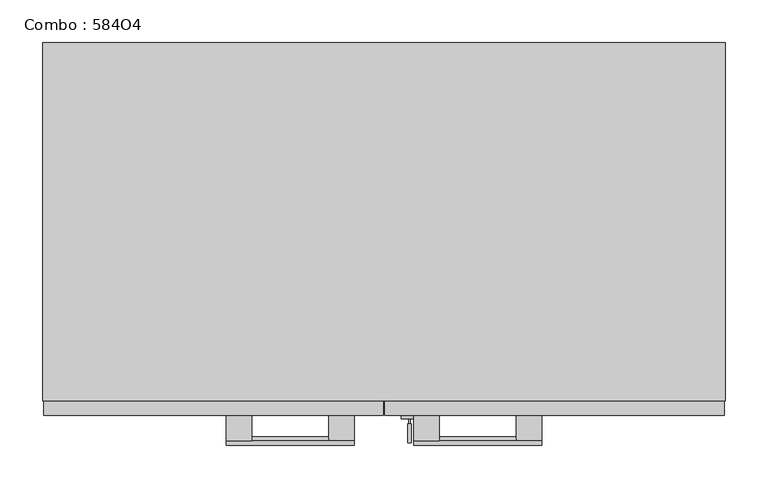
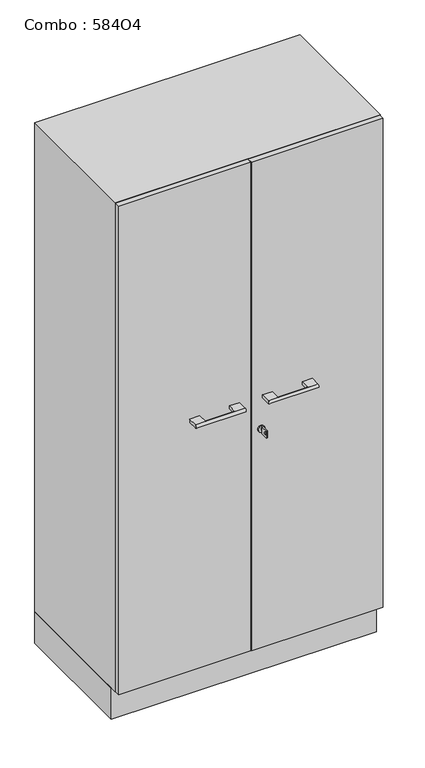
"""IFC4 building model written with IfcOpenShell, lengths in millimetres: furniture geometry, Combo : 584O4."""

from ifc_helpers import new_model, si_unit, point, frame, frame_2d, origin, origin_with_axes, place, context, project, spatial, polyline, circle_curve, trimmed, segment, composite_curve, outline, extrude, source, transform, mapped, element, save
from ifc_brep_helpers import plane_surface, cylinder_surface, advanced_brep


def combo_584o4_b0ceb60e(model_context):
    return source(origin(), model_context, "Body", "SolidModel", [
        extrude(outline(polyline([(-400.0, -400.0), (-400.0, 0.0), (400.0, 0.0), (400.0, -400.0), (-400.0, -400.0)])), origin_with_axes(), (0.0, 0.0, 1.0), 100.0),
        extrude(outline(composite_curve([segment(trimmed(circle_curve(frame_2d((800.0, 30.0)), 10.0), [point((800.0, 20.0))], [point((800.0, 40.0))], False, "CARTESIAN"), True, "CONTINUOUS"), segment(trimmed(circle_curve(frame_2d((800.0, 30.0)), 10.0), [point((800.0, 40.0))], [point((800.0, 20.0))], False, "CARTESIAN"), True, "CONTINUOUS")], self_intersect=False)), frame((0.0, -441.0, 0.0), z_axis=(0.0, 1.0, 0.0), x_axis=(0.0, 0.0, 1.0)), (0.0, 0.0, 1.0), 4.0),
        extrude(outline(polyline([(-469.0, 789.014113), (-469.0, 811.0), (-447.0, 811.0), (-447.0, 789.014113), (-469.0, 789.014113)]), holes=[composite_curve([segment(trimmed(circle_curve(frame_2d((-462.75, 800.0070565)), 3.2230706), [point((-462.75, 803.2301271))], [point((-462.75, 796.7839859))], True, "CARTESIAN"), True, "CONTINUOUS"), segment(trimmed(circle_curve(frame_2d((-462.75, 800.0070565)), 3.2230706), [point((-462.75, 796.7839859))], [point((-462.75, 803.2301271))], True, "CARTESIAN"), True, "CONTINUOUS")], self_intersect=False)]), frame((28.0, 0.0, 0.0), z_axis=(1.0, 0.0, 0.0), x_axis=(0.0, 1.0, 0.0)), (0.0, 0.0, 1.0), 4.0416064),
        extrude(outline(polyline([(31.0416064, -447.0), (29.0, -447.0), (29.0, -441.0), (31.0416064, -441.0), (31.0416064, -447.0)])), frame((0.0, 0.0, 796.014113), z_axis=(0.0, 0.0, 1.0), x_axis=(1.0, 0.0, 0.0)), (0.0, 0.0, 1.0), 7.985887),
        advanced_brep(
        [(-185.0, -467.0, 905.0), (-185.0, -437.0, 905.0), (-185.0, -437.0, 895.0), (-185.0, -467.0, 895.0), (-155.0, -467.0, 895.0), (-155.0, -437.0, 895.0), (-155.0, -437.0, 905.0), (-155.0, -467.0, 905.0), (-35.0, -467.0, 905.0), (-35.0, -467.0, 895.0), (-35.0, -437.0, 895.0), (-35.0, -437.0, 905.0), (-65.0, -467.0, 905.0), (-65.0, -467.0, 895.0), (-65.0, -437.0, 905.0), (-65.0, -437.0, 895.0)],
        [
            (0, 1),
            (1, 2),
            (2, 3),
            (3, 0, circle_curve(frame((-185.0, -467.0, 900.0), z_axis=(-1.0, 0.0, 0.0), x_axis=(0.0, 0.0, -1.0)), 5.0)),
            (4, 5),
            (5, 6),
            (6, 7),
            (7, 4, circle_curve(frame((-155.0, -467.0, 900.0), z_axis=(-1.0, 0.0, 0.0), x_axis=(0.0, 0.0, -1.0)), 5.0)),
            (2, 5),
            (4, 3),
            (1, 6),
            (0, 7),
            (8, 9, circle_curve(frame((-35.0, -467.0, 900.0), z_axis=(1.0, 0.0, 0.0), x_axis=(0.0, 0.0, -1.0)), 5.0)),
            (9, 10),
            (10, 11),
            (11, 8),
            (8, 12),
            (12, 7),
            (4, 13),
            (13, 9),
            (12, 13, circle_curve(frame((-65.0, -467.0, 900.0), z_axis=(-1.0, 0.0, 0.0), x_axis=(0.0, 0.0, -1.0)), 5.0)),
            (12, 14),
            (14, 15),
            (15, 13),
            (15, 10),
            (14, 11),
        ],
        [
            plane_surface(frame((-185.0, -467.0, 906.0), z_axis=(-1.0, 0.0, 0.0), x_axis=(0.0, 0.0, 1.0))),
            plane_surface(frame((-155.0, -467.0, 906.0), z_axis=(1.0, 0.0, 0.0), x_axis=(0.0, 0.0, -1.0))),
            plane_surface(frame((-185.0, -437.0, 895.0), z_axis=(0.0, 0.0, -1.0), x_axis=(1.0, 0.0, 0.0))),
            plane_surface(frame((-185.0, -437.0, 905.0), z_axis=(0.0, 1.0, 0.0), x_axis=(1.0, 0.0, 0.0))),
            plane_surface(frame((-185.0, -467.0, 905.0), z_axis=(0.0, 0.0, 1.0), x_axis=(1.0, 0.0, 0.0))),
            plane_surface(frame((-35.0, -467.0, 895.0), z_axis=(1.0, 0.0, 0.0), x_axis=(0.0, 1.0, 0.0))),
            cylinder_surface(frame((-185.0, -467.0, 900.0), z_axis=(1.0, 0.0, 0.0), x_axis=(0.0, 0.0, -1.0)), 5.0),
            plane_surface(frame((-65.0, -555.7415577, 895.0), z_axis=(-1.0, 0.0, 0.0), x_axis=(0.0, -1.0, 0.0))),
            plane_surface(frame((-35.0, -467.0, 895.0), z_axis=(0.0, 0.0, -1.0), x_axis=(-1.0, 0.0, 0.0))),
            plane_surface(frame((-35.0, -437.0, 895.0), z_axis=(0.0, 1.0, 0.0), x_axis=(-1.0, 0.0, 0.0))),
            plane_surface(frame((-35.0, -437.0, 905.0), z_axis=(0.0, 0.0, 1.0), x_axis=(-1.0, 0.0, 0.0))),
        ],
        [
            (0, [[1, 2, 3, 4]]),
            (1, [[5, 6, 7, 8]]),
            (2, [[-3, 9, -5, 10]]),
            (3, [[-2, 11, -6, -9]]),
            (4, [[-1, 12, -7, -11]]),
            (5, [[13, 14, 15, 16]]),
            (6, [[-13, 17, 18, -12, -4, -10, 19, 20]]),
            (6, [[-8, -18, 21, -19]]),
            (7, [[22, 23, 24, -21]]),
            (8, [[-14, -20, -24, 25]]),
            (9, [[-15, -25, -23, 26]]),
            (10, [[-16, -26, -22, -17]]),
        ],
    ),
        advanced_brep(
        [(35.0, -467.0, 905.0), (35.0, -437.0, 905.0), (35.0, -437.0, 895.0), (35.0, -467.0, 895.0), (65.0, -467.0, 895.0), (65.0, -437.0, 895.0), (65.0, -437.0, 905.0), (65.0, -467.0, 905.0), (185.0, -467.0, 905.0), (185.0, -467.0, 895.0), (185.0, -437.0, 895.0), (185.0, -437.0, 905.0), (155.0, -467.0, 905.0), (155.0, -467.0, 895.0), (155.0, -437.0, 905.0), (155.0, -437.0, 895.0)],
        [
            (0, 1),
            (1, 2),
            (2, 3),
            (3, 0, circle_curve(frame((35.0, -467.0, 900.0), z_axis=(-1.0, 0.0, 0.0), x_axis=(0.0, 0.0, -1.0)), 5.0)),
            (4, 5),
            (5, 6),
            (6, 7),
            (7, 4, circle_curve(frame((65.0, -467.0, 900.0), z_axis=(-1.0, 0.0, 0.0), x_axis=(0.0, 0.0, -1.0)), 5.0)),
            (2, 5),
            (4, 3),
            (1, 6),
            (0, 7),
            (8, 9, circle_curve(frame((185.0, -467.0, 900.0), z_axis=(1.0, 0.0, 0.0), x_axis=(0.0, 0.0, -1.0)), 5.0)),
            (9, 10),
            (10, 11),
            (11, 8),
            (8, 12),
            (12, 7),
            (4, 13),
            (13, 9),
            (12, 13, circle_curve(frame((155.0, -467.0, 900.0), z_axis=(-1.0, 0.0, 0.0), x_axis=(0.0, 0.0, -1.0)), 5.0)),
            (12, 14),
            (14, 15),
            (15, 13),
            (15, 10),
            (14, 11),
        ],
        [
            plane_surface(frame((35.0, -467.0, 906.0), z_axis=(-1.0, 0.0, 0.0), x_axis=(0.0, 0.0, 1.0))),
            plane_surface(frame((65.0, -467.0, 906.0), z_axis=(1.0, 0.0, 0.0), x_axis=(0.0, 0.0, -1.0))),
            plane_surface(frame((35.0, -437.0, 895.0), z_axis=(0.0, 0.0, -1.0), x_axis=(1.0, 0.0, 0.0))),
            plane_surface(frame((35.0, -437.0, 905.0), z_axis=(0.0, 1.0, 0.0), x_axis=(1.0, 0.0, 0.0))),
            plane_surface(frame((35.0, -467.0, 905.0), z_axis=(0.0, 0.0, 1.0), x_axis=(1.0, 0.0, 0.0))),
            plane_surface(frame((185.0, -467.0, 895.0), z_axis=(1.0, 0.0, 0.0), x_axis=(0.0, 1.0, 0.0))),
            cylinder_surface(frame((35.0, -467.0, 900.0), z_axis=(1.0, 0.0, 0.0), x_axis=(0.0, 0.0, -1.0)), 5.0),
            plane_surface(frame((155.0, -555.7415577, 895.0), z_axis=(-1.0, 0.0, 0.0), x_axis=(0.0, -1.0, 0.0))),
            plane_surface(frame((185.0, -467.0, 895.0), z_axis=(0.0, 0.0, -1.0), x_axis=(-1.0, 0.0, 0.0))),
            plane_surface(frame((185.0, -437.0, 895.0), z_axis=(0.0, 1.0, 0.0), x_axis=(-1.0, 0.0, 0.0))),
            plane_surface(frame((185.0, -437.0, 905.0), z_axis=(0.0, 0.0, 1.0), x_axis=(-1.0, 0.0, 0.0))),
        ],
        [
            (0, [[1, 2, 3, 4]]),
            (1, [[5, 6, 7, 8]]),
            (2, [[-3, 9, -5, 10]]),
            (3, [[-2, 11, -6, -9]]),
            (4, [[-1, 12, -7, -11]]),
            (5, [[13, 14, 15, 16]]),
            (6, [[-13, 17, 18, -12, -4, -10, 19, 20]]),
            (6, [[-8, -18, 21, -19]]),
            (7, [[22, 23, 24, -21]]),
            (8, [[-14, -20, -24, 25]]),
            (9, [[-15, -25, -23, 26]]),
            (10, [[-16, -26, -22, -17]]),
        ],
    ),
        extrude(outline(polyline([(-1.0, -437.0), (-399.0, -437.0), (-399.0, -421.0), (-1.0, -421.0), (-1.0, -437.0)])), frame((0.0, 0.0, 101.0), z_axis=(0.0, 0.0, 1.0), x_axis=(1.0, 0.0, 0.0)), (0.0, 0.0, 1.0), 1558.0),
        extrude(outline(polyline([(399.0, -437.0), (1.0, -437.0), (1.0, -421.0), (399.0, -421.0), (399.0, -437.0)])), frame((0.0, 0.0, 101.0), z_axis=(0.0, 0.0, 1.0), x_axis=(1.0, 0.0, 0.0)), (0.0, 0.0, 1.0), 1558.0),
        extrude(outline(polyline([(400.0, 0.0), (400.0, -420.0), (-400.0, -420.0), (-400.0, 0.0), (400.0, 0.0)])), frame((0.0, 0.0, 100.0), z_axis=(0.0, 0.0, 1.0), x_axis=(1.0, 0.0, 0.0)), (0.0, 0.0, 1.0), 1560.0),
    ])


if __name__ == "__main__":
    model = new_model("IFC4")
    model_context = context("Model", 3, world=origin())
    ifc_project = project(units=[si_unit("LENGTHUNIT", "METRE", prefix="MILLI")], contexts=[model_context])
    site = spatial("IfcSite", under=ifc_project)
    building = spatial("IfcBuilding", under=site)
    placement = place(None, origin())
    combo_584o4_shape = combo_584o4_b0ceb60e(model_context)
    element("IfcFurniture", 1, ObjectType="Combo : 584O4", at=placement, inside=building, context=model_context, shape_type="MappedRepresentation", body=[
        mapped(combo_584o4_shape, transform((0.0, 0.0, 0.0), x_axis=(1.0, 0.0, 0.0), y_axis=(0.0, 1.0, 0.0), z_axis=(0.0, 0.0, 1.0))),
    ])
    save(model, "model.ifc")
